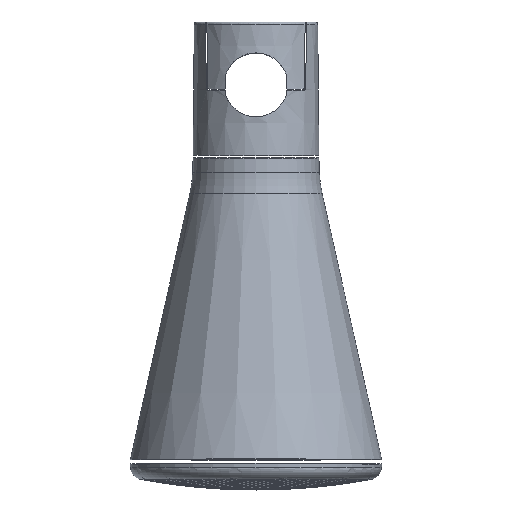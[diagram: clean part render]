
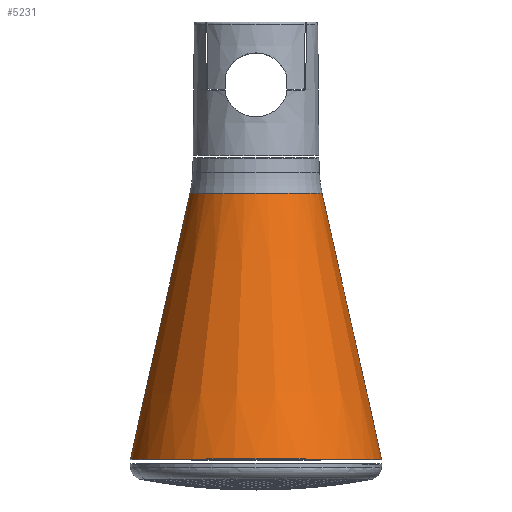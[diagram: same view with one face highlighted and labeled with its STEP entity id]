
A CAD part, top view. The second image highlights one B-rep face of the part: STEP entity #5231.
In plain terms, the highlighted conical face has half-angle 12.631 degrees and reference radius 37.675 mm.
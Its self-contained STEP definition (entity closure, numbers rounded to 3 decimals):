
#756=LINE('',#6199,#772);
#772=VECTOR('',#5499,37.675);
#799=FACE_OUTER_BOUND('',#819,.T.);
#819=EDGE_LOOP('',(#4347,#4348,#4349,#4350,#4351,#4352,#4353,#4354));
#1582=CIRCLE('',#5313,49.945);
#1586=CIRCLE('',#5317,49.945);
#1587=CIRCLE('',#5318,49.945);
#1588=CIRCLE('',#5320,26.265);
#1589=CIRCLE('',#5321,26.265);
#1590=CIRCLE('',#5322,26.265);
#2529=VERTEX_POINT('',#6181);
#2530=VERTEX_POINT('',#6182);
#2533=VERTEX_POINT('',#6189);
#2534=VERTEX_POINT('',#6193);
#2535=VERTEX_POINT('',#6194);
#2536=VERTEX_POINT('',#6196);
#3412=EDGE_CURVE('',#2529,#2530,#1582,.T.);
#3416=EDGE_CURVE('',#2530,#2533,#1586,.T.);
#3417=EDGE_CURVE('',#2533,#2529,#1587,.T.);
#3418=EDGE_CURVE('',#2534,#2535,#1588,.T.);
#3419=EDGE_CURVE('',#2536,#2534,#1589,.T.);
#3420=EDGE_CURVE('',#2535,#2536,#1590,.T.);
#3421=EDGE_CURVE('',#2535,#2533,#756,.T.);
#4347=ORIENTED_EDGE('',*,*,#3418,.F.);
#4348=ORIENTED_EDGE('',*,*,#3419,.F.);
#4349=ORIENTED_EDGE('',*,*,#3420,.F.);
#4350=ORIENTED_EDGE('',*,*,#3421,.T.);
#4351=ORIENTED_EDGE('',*,*,#3416,.F.);
#4352=ORIENTED_EDGE('',*,*,#3412,.F.);
#4353=ORIENTED_EDGE('',*,*,#3417,.F.);
#4354=ORIENTED_EDGE('',*,*,#3421,.F.);
#5206=CONICAL_SURFACE('',#5319,37.675,0.22);
#5231=ADVANCED_FACE('',(#799),#5206,.T.);
#5313=AXIS2_PLACEMENT_3D('',#6183,#5479,#5480);
#5317=AXIS2_PLACEMENT_3D('',#6190,#5487,#5488);
#5318=AXIS2_PLACEMENT_3D('',#6191,#5489,#5490);
#5319=AXIS2_PLACEMENT_3D('',#6192,#5491,#5492);
#5320=AXIS2_PLACEMENT_3D('',#6195,#5493,#5494);
#5321=AXIS2_PLACEMENT_3D('',#6197,#5495,#5496);
#5322=AXIS2_PLACEMENT_3D('',#6198,#5497,#5498);
#5479=DIRECTION('center_axis',(0.,-1.,0.));
#5480=DIRECTION('ref_axis',(1.,0.,0.));
#5487=DIRECTION('center_axis',(0.,-1.,0.));
#5488=DIRECTION('ref_axis',(1.,0.,0.));
#5489=DIRECTION('center_axis',(0.,-1.,0.));
#5490=DIRECTION('ref_axis',(1.,0.,0.));
#5491=DIRECTION('center_axis',(0.,-1.,0.));
#5492=DIRECTION('ref_axis',(-1.,0.,0.));
#5493=DIRECTION('center_axis',(0.,1.,0.));
#5494=DIRECTION('ref_axis',(1.,0.,0.));
#5495=DIRECTION('center_axis',(0.,1.,0.));
#5496=DIRECTION('ref_axis',(1.,0.,0.));
#5497=DIRECTION('center_axis',(0.,1.,0.));
#5498=DIRECTION('ref_axis',(1.,0.,0.));
#5499=DIRECTION('',(0.219,-0.976,0.));
#6181=CARTESIAN_POINT('',(-49.945,-120.756,0.));
#6182=CARTESIAN_POINT('',(0.,-120.756,-49.945));
#6183=CARTESIAN_POINT('Origin',(0.,-120.756,
0.));
#6189=CARTESIAN_POINT('',(49.945,-120.756,0.));
#6190=CARTESIAN_POINT('Origin',(0.,-120.756,
0.));
#6191=CARTESIAN_POINT('Origin',(0.,-120.756,
0.));
#6192=CARTESIAN_POINT('Origin',(0.,-66.,0.));
#6193=CARTESIAN_POINT('',(-26.265,-15.086,0.));
#6194=CARTESIAN_POINT('',(26.265,-15.086,0.));
#6195=CARTESIAN_POINT('Origin',(0.,-15.086,
0.));
#6196=CARTESIAN_POINT('',(0.,-15.086,-26.265));
#6197=CARTESIAN_POINT('Origin',(0.,-15.086,
0.));
#6198=CARTESIAN_POINT('Origin',(0.,-15.086,
0.));
#6199=CARTESIAN_POINT('',(37.675,-66.,0.));
